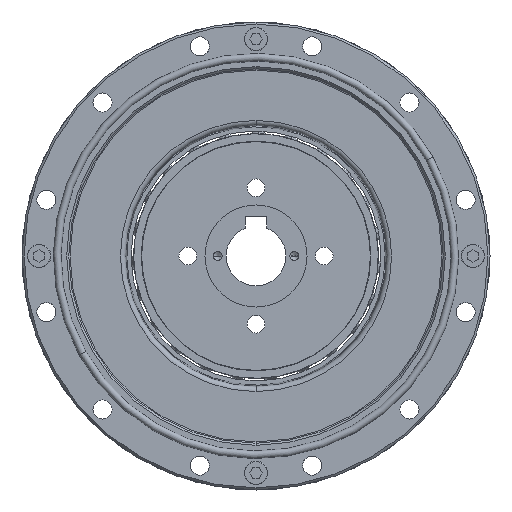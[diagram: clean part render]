
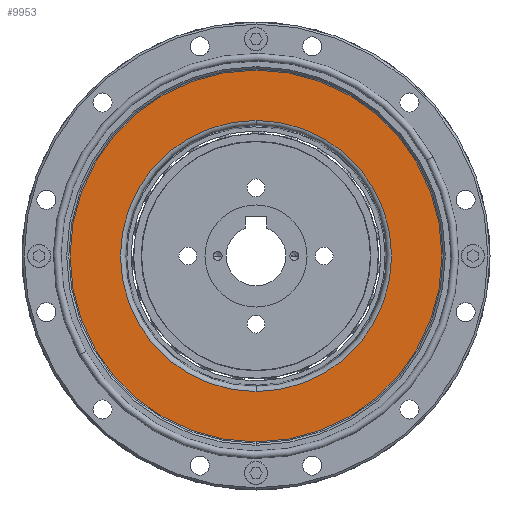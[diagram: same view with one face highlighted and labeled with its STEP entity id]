
A CAD part, left-side view. The second image highlights one B-rep face of the part: STEP entity #9953.
In plain terms, the highlighted planar face has unit normal (-1, 0, 0).
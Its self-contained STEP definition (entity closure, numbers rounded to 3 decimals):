
#1643 = FACE_BOUND ( 'NONE', #4048, .T. ) ;
#1693 = EDGE_LOOP ( 'NONE', ( #4051, #9632 ) ) ;
#1999 = CARTESIAN_POINT ( 'NONE',  ( -14.53, 44., 0. ) ) ;
#2376 = VERTEX_POINT ( 'NONE', #15071 ) ;
#2653 = AXIS2_PLACEMENT_3D ( 'NONE', #1999, #5321, #16734 ) ;
#2693 = FACE_OUTER_BOUND ( 'NONE', #1693, .T. ) ;
#3192 = ORIENTED_EDGE ( 'NONE', *, *, #18537, .F. ) ;
#3826 = EDGE_CURVE ( 'NONE', #18182, #2376, #20786, .T. ) ;
#4048 = EDGE_LOOP ( 'NONE', ( #14145, #3192 ) ) ;
#4051 = ORIENTED_EDGE ( 'NONE', *, *, #3826, .T. ) ;
#4464 = CARTESIAN_POINT ( 'NONE',  ( -14.53, 0., 0. ) ) ;
#4691 = CIRCLE ( 'NONE', #7670, 31.87 ) ;
#4998 = DIRECTION ( 'NONE',  ( -1., 0., 0. ) ) ;
#5321 = DIRECTION ( 'NONE',  ( 1., 0., 0. ) ) ;
#5947 = CARTESIAN_POINT ( 'NONE',  ( -14.53, 0., 0. ) ) ;
#6939 = CARTESIAN_POINT ( 'NONE',  ( -14.53, 0., 31.87 ) ) ;
#7586 = DIRECTION ( 'NONE',  ( 0., 0., 1. ) ) ;
#7670 = AXIS2_PLACEMENT_3D ( 'NONE', #18872, #9094, #20528 ) ;
#8240 = CARTESIAN_POINT ( 'NONE',  ( -14.53, 0., -31.87 ) ) ;
#9002 = DIRECTION ( 'NONE',  ( 0., 0., -1. ) ) ;
#9094 = DIRECTION ( 'NONE',  ( -1., 0., 0. ) ) ;
#9632 = ORIENTED_EDGE ( 'NONE', *, *, #10476, .T. ) ;
#9714 = CARTESIAN_POINT ( 'NONE',  ( -14.53, 0., -43.7 ) ) ;
#9953 = ADVANCED_FACE ( 'NONE', ( #2693, #1643 ), #10150, .F. ) ;
#10150 = PLANE ( 'NONE',  #2653 ) ;
#10476 = EDGE_CURVE ( 'NONE', #2376, #18182, #12655, .T. ) ;
#12655 = CIRCLE ( 'NONE', #12804, 43.7 ) ;
#12804 = AXIS2_PLACEMENT_3D ( 'NONE', #14773, #4998, #16412 ) ;
#13040 = AXIS2_PLACEMENT_3D ( 'NONE', #5947, #17365, #7586 ) ;
#13239 = VERTEX_POINT ( 'NONE', #8240 ) ;
#13912 = VERTEX_POINT ( 'NONE', #6939 ) ;
#14145 = ORIENTED_EDGE ( 'NONE', *, *, #16136, .F. ) ;
#14773 = CARTESIAN_POINT ( 'NONE',  ( -14.53, 0., 0. ) ) ;
#15071 = CARTESIAN_POINT ( 'NONE',  ( -14.53, 0., 43.7 ) ) ;
#15082 = AXIS2_PLACEMENT_3D ( 'NONE', #4464, #15822, #9002 ) ;
#15822 = DIRECTION ( 'NONE',  ( -1., 0., 0. ) ) ;
#16136 = EDGE_CURVE ( 'NONE', #13912, #13239, #4691, .T. ) ;
#16412 = DIRECTION ( 'NONE',  ( 0., 0., -1. ) ) ;
#16734 = DIRECTION ( 'NONE',  ( 0., 0., -1. ) ) ;
#17365 = DIRECTION ( 'NONE',  ( -1., 0., 0. ) ) ;
#17408 = CIRCLE ( 'NONE', #13040, 31.87 ) ;
#18182 = VERTEX_POINT ( 'NONE', #9714 ) ;
#18537 = EDGE_CURVE ( 'NONE', #13239, #13912, #17408, .T. ) ;
#18872 = CARTESIAN_POINT ( 'NONE',  ( -14.53, 0., 0. ) ) ;
#20528 = DIRECTION ( 'NONE',  ( 0., 0., 1. ) ) ;
#20786 = CIRCLE ( 'NONE', #15082, 43.7 ) ;
